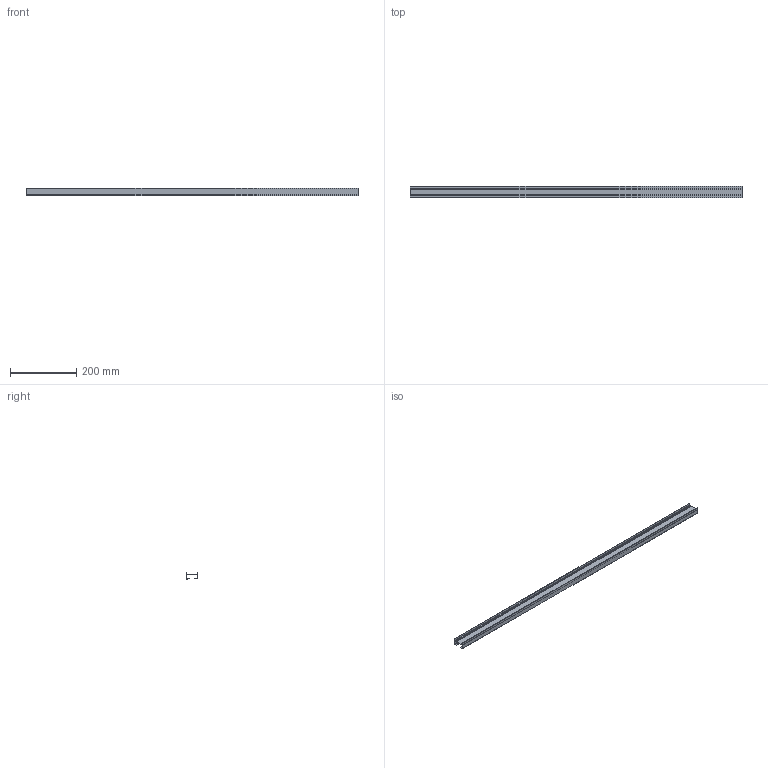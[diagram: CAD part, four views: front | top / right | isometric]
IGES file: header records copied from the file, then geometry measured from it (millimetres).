
Start section: SolidWorks IGES file using NURBS representation for surfaces
Global section: file name: Z:\Modele 3D_WWW\_KOLEKCJE WWW\PROFILE SYSTEM\PROFILE-TRACK-1M-9450-9448\PROFILE-TRACK-1M-9450-9448.IGS; native system: SolidWorks 2021; preprocessor: SolidWorks 2021; author: gabriela.tworek; date: 220214.121322; units: millimetre
Bounding box: 1000 x 34.28 x 21.2 mm (x, y, z)
Surface area: 180762.7 mm2 (no closed solid volume)
Topology: 0 solids, 0 shells, 28 faces, 156 edges, 156 vertices
Faces by surface type: bspline 28
